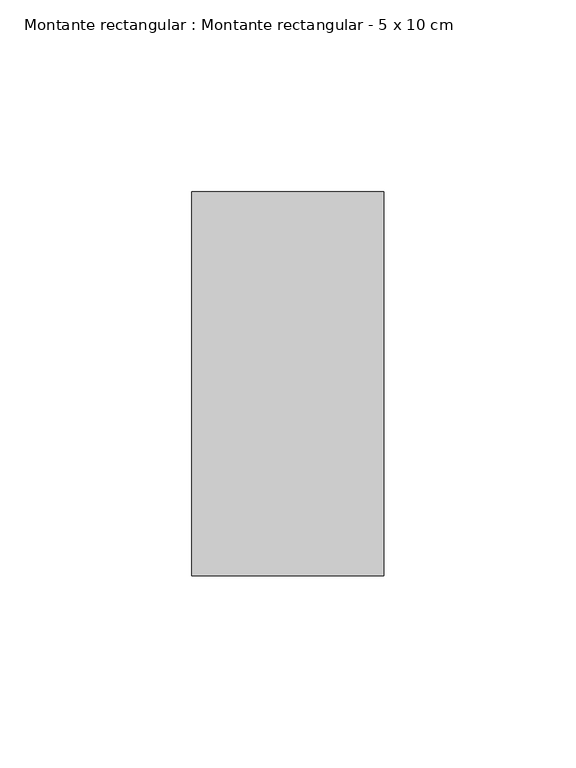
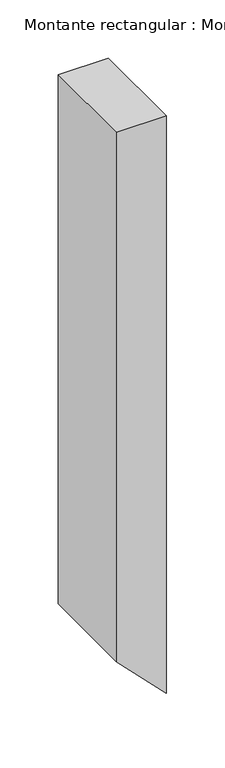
"""IFC4 building model written with IfcOpenShell, lengths in millimetres: member geometry, Montante rectangular : Montante rectangular - 5 x 10 cm."""

from ifc_helpers import new_model, si_unit, frame, origin, place, context, project, spatial, polyline, outline, extrude, source, transform, mapped, element, save


def montante_rectangular_montante_rectangular_5_x_10_cm_37b53579(model_context):
    return source(origin(), model_context, "Body", "SweptSolid", [
        extrude(outline(polyline([(0.0, 0.0), (0.0, -50.0), (-556.0720547, -50.0), (-606.7633775, 0.0), (0.0, 0.0)])), frame((0.0, -50.0, 0.0), z_axis=(0.0, 1.0, 0.0), x_axis=(0.0, 0.0, 1.0)), (0.0, 0.0, 1.0), 100.0),
    ])


if __name__ == "__main__":
    model = new_model("IFC4")
    model_context = context("Model", 3, world=origin())
    ifc_project = project(units=[si_unit("LENGTHUNIT", "METRE", prefix="MILLI")], contexts=[model_context])
    site = spatial("IfcSite", under=ifc_project)
    building = spatial("IfcBuilding", under=site)
    placement = place(None, origin())
    montante_rectangular_montante_rectangular_5_x_10_cm_shape = montante_rectangular_montante_rectangular_5_x_10_cm_37b53579(model_context)
    element("IfcMember", 1, ObjectType="Montante rectangular : Montante rectangular - 5 x 10 cm", at=placement, inside=building, context=model_context, shape_type="MappedRepresentation", body=[
        mapped(montante_rectangular_montante_rectangular_5_x_10_cm_shape, transform((0.0, 0.0, 0.0), x_axis=(1.0, 0.0, 0.0), y_axis=(0.0, 1.0, 0.0), z_axis=(0.0, 0.0, 1.0))),
    ])
    save(model, "model.ifc")
